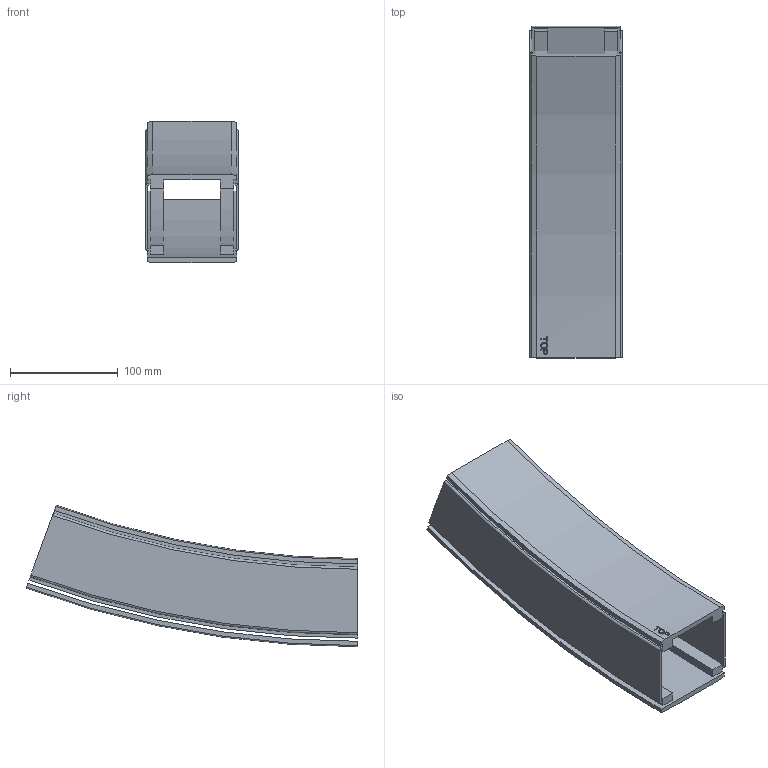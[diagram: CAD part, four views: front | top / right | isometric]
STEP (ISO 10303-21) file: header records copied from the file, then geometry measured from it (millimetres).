
FILE_DESCRIPTION(/* description */ ('VERTIKALKURVA S530 R860'),/* implementation_level */ '2;1');
FILE_NAME(/* name */ '530-5695+830-2000-UPP-01.stp',/* time_stamp */ '2022-09-21T07:17:04+02:00',/* author */ ('Mathias.Dore'),/* organization */ ('CARRYLINE'),/* preprocessor_version */ 'ST-DEVELOPER v19.2',/* originating_system */ 'Autodesk Inventor 2023',/* authorisation */ '');
FILE_SCHEMA (('AUTOMOTIVE_DESIGN { 1 0 10303 214 3 1 1 }'));
Length unit declared in the file: millimetre
Products named in the file (1): 530-5695+830-2000-UPP-01
Bounding box: 86 x 308.67 x 131.48 mm (x, y, z)
Volume: 446088.1 mm3; surface area: 219592.3 mm2
Topology: 2 solids, 2 shells, 87 faces, 234 edges, 156 vertices
Faces by surface type: plane 40, cylinder 25, bspline 14, cone 4, torus 4
Entity records: 7345 total; most frequent: CARTESIAN_POINT 5146, ORIENTED_EDGE 468, DIRECTION 408, EDGE_CURVE 234, VERTEX_POINT 156, AXIS2_PLACEMENT_3D 141, LINE 126, VECTOR 126
